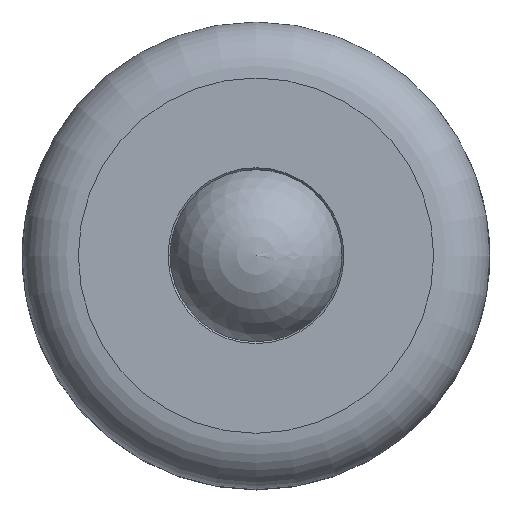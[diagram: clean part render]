
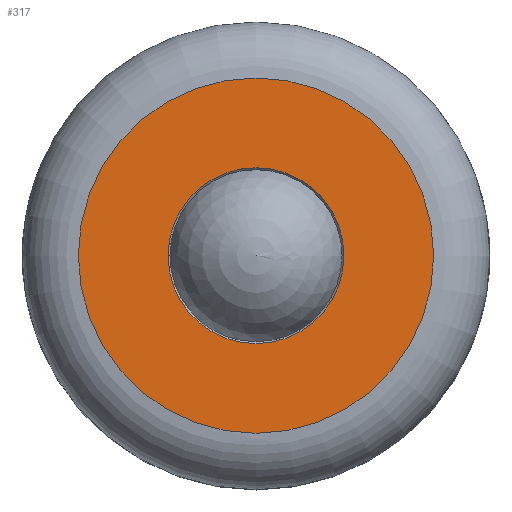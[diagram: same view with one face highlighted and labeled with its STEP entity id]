
A CAD part, top view. The second image highlights one B-rep face of the part: STEP entity #317.
In plain terms, the highlighted planar face has unit normal (0, 0, 1).
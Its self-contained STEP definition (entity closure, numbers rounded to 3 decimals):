
#44=FACE_BOUND('',#135,.T.);
#68=CIRCLE('',#363,9.5);
#69=CIRCLE('',#365,4.701);
#94=FACE_OUTER_BOUND('',#134,.T.);
#134=EDGE_LOOP('',(#274));
#135=EDGE_LOOP('',(#275));
#184=VERTEX_POINT('',#554);
#185=VERTEX_POINT('',#557);
#216=EDGE_CURVE('',#184,#184,#68,.T.);
#217=EDGE_CURVE('',#185,#185,#69,.T.);
#274=ORIENTED_EDGE('',*,*,#216,.T.);
#275=ORIENTED_EDGE('',*,*,#217,.F.);
#295=PLANE('',#364);
#317=ADVANCED_FACE('',(#94,#44),#295,.T.);
#363=AXIS2_PLACEMENT_3D('',#555,#461,#462);
#364=AXIS2_PLACEMENT_3D('',#556,#463,#464);
#365=AXIS2_PLACEMENT_3D('',#558,#465,#466);
#461=DIRECTION('center_axis',(0.,0.,1.));
#462=DIRECTION('ref_axis',(0.,-1.,0.));
#463=DIRECTION('center_axis',(0.,0.,1.));
#464=DIRECTION('ref_axis',(1.,0.,0.));
#465=DIRECTION('center_axis',(0.,0.,1.));
#466=DIRECTION('ref_axis',(0.,-1.,0.));
#554=CARTESIAN_POINT('',(0.,-9.5,17.5));
#555=CARTESIAN_POINT('Origin',(0.,0.,17.5));
#556=CARTESIAN_POINT('Origin',(0.,-7.101,17.5));
#557=CARTESIAN_POINT('',(0.,-4.701,17.5));
#558=CARTESIAN_POINT('Origin',(0.,0.,17.5));
